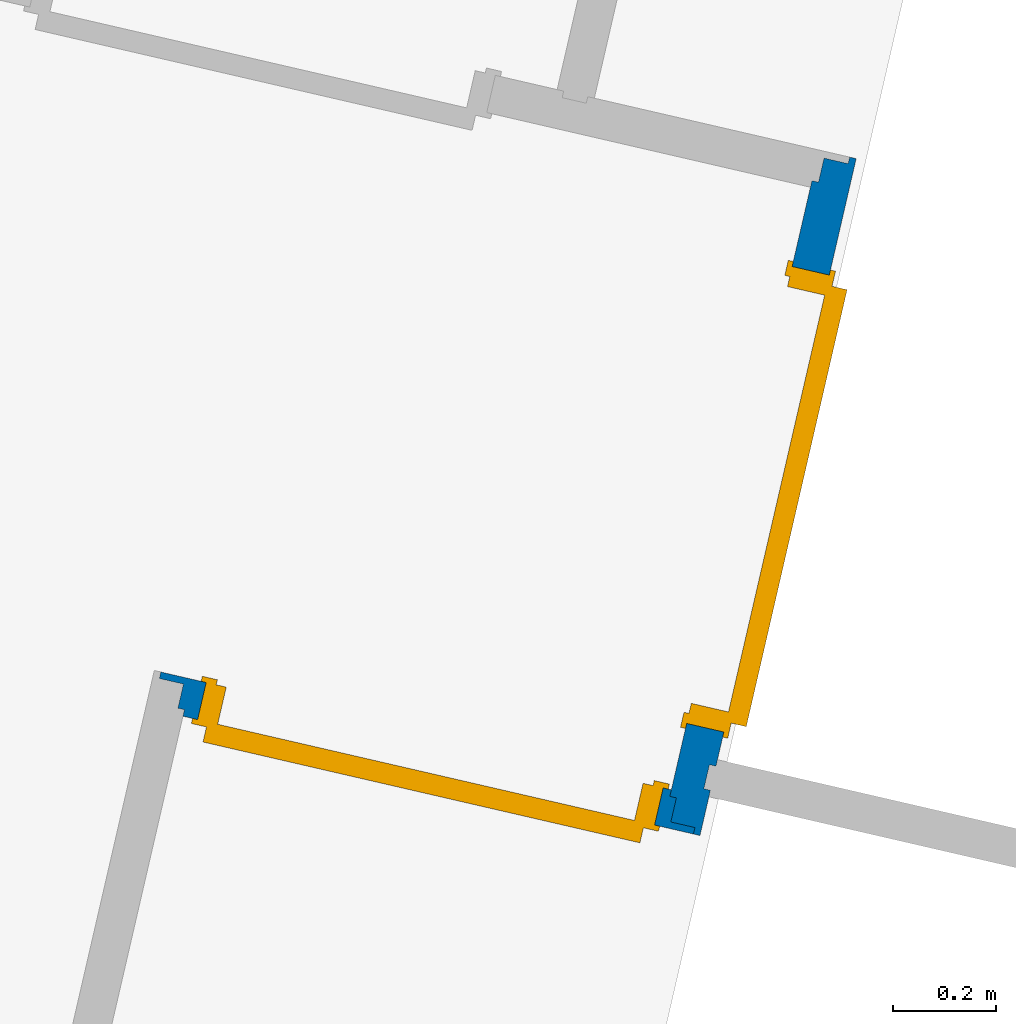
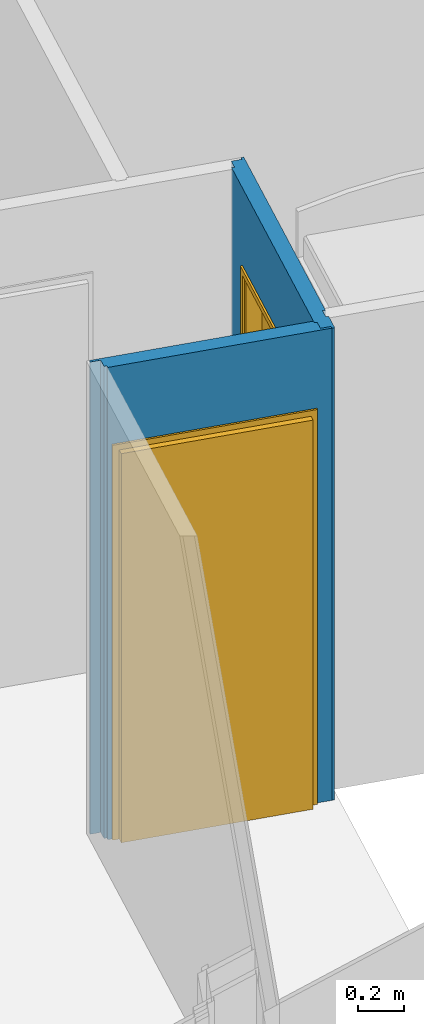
# One storey, part 28 of 119: 2 doors, 2 walls, 2 openings.
"""IFC2X3 building model written with IfcOpenShell, lengths in metres."""

from ifc_helpers import new_model, entity, si_unit, converted_unit, derived_unit, money_unit, direction, frame, origin_with_axes, place, context, subcontext, project, spatial, faceted_brep, source, transform, mapped, material, material_list, type_object, element, fill, save


model = new_model("IFC2X3")

# Units and contexts
model_context = context("Model", 3, precision=1e-05, world=origin_with_axes(), true_north=direction((0.0, 1.0)))
body_context = subcontext(model_context, "Body", "Model", "MODEL_VIEW")
ifc_project = project(units=[si_unit("LENGTHUNIT", "METRE"), si_unit("AREAUNIT", "SQUARE_METRE"), si_unit("VOLUMEUNIT", "CUBIC_METRE"), converted_unit("PLANEANGLEUNIT", "DEGREE", entity("IfcPlaneAngleMeasure", 0.0174532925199), si_unit("PLANEANGLEUNIT", "RADIAN"), dimensions=[0, 0, 0, 0, 0, 0, 0]), si_unit("SOLIDANGLEUNIT", "STERADIAN"), money_unit("EUR"), converted_unit("TIMEUNIT", "Year", entity("IfcTimeMeasure", 31556926.0), si_unit("TIMEUNIT", "SECOND"), dimensions=[0, 0, 1, 0, 0, 0, 0]), si_unit("MASSUNIT", "GRAM", prefix="KILO"), si_unit("THERMODYNAMICTEMPERATUREUNIT", "DEGREE_CELSIUS"), si_unit("LUMINOUSINTENSITYUNIT", "LUMEN"), si_unit("ENERGYUNIT", "JOULE", prefix="MEGA"), derived_unit("THERMALCONDUCTANCEUNIT", [(si_unit("POWERUNIT", "WATT"), 1), (si_unit("LENGTHUNIT", "METRE"), -1), (si_unit("THERMODYNAMICTEMPERATUREUNIT", "KELVIN"), -1)]), derived_unit("SPECIFICHEATCAPACITYUNIT", [(si_unit("ENERGYUNIT", "JOULE"), 1), (si_unit("MASSUNIT", "GRAM", prefix="KILO"), -1), (si_unit("THERMODYNAMICTEMPERATUREUNIT", "KELVIN"), -1)]), derived_unit("MASSDENSITYUNIT", [(si_unit("MASSUNIT", "GRAM", prefix="KILO"), 1), (si_unit("VOLUMEUNIT", "CUBIC_METRE"), -1)])], contexts=[model_context])

# Site, building, storey
site_placement = place(None, origin_with_axes())
site = spatial("IfcSite", under=ifc_project, at=site_placement, Name="Site", CompositionType="ELEMENT")
building_placement = place(site_placement, origin_with_axes())
building = spatial("IfcBuilding", under=site, at=building_placement, Name="Bâtiment", CompositionType="ELEMENT")
storey_placement = place(building_placement, origin_with_axes())
storey = spatial("IfcBuildingStorey", under=building, at=storey_placement, Name="Rez-de-chaussée", CompositionType="ELEMENT", Elevation=0.0)

# Wall, opening, door
ifc_material_1 = material(Name="Finition int - Plaque de plâtre")
ifc_material_2 = material(Name="Isolation - Laine de roche")
ifc_material_list = material_list([ifc_material_1, ifc_material_2, ifc_material_1])
wall_type = type_object("IfcWallType", Name="3 - Cloison 72mm Placostil 74", PredefinedType="USERDEFINED")
wall_1_placement = place(storey_placement, frame((-3.11984447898, 9.91320056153, 0.0), z_axis=(0.0, 0.0, 1.0), x_axis=(0.224876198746, 0.974387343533, 0.0)))
wall_1 = element("IfcWall", 1, at=wall_1_placement, inside=storey, type_object=wall_type, material=ifc_material_list, Name="Cloison Placostil 72/48", ObjectType="PARTITIONING", context=body_context, shape_type="Brep", body=[
    faceted_brep([(0.206154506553, 0.061, 0.0), (0.206154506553, 0.061, 2.08), (1.11615450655, 0.061, 2.08), (1.11615450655, 0.061, 0.0), (1.28699999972, 0.061, 0.0), (1.28699999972, 0.061, 2.5), (0.061, 0.061, 2.5), (0.061, 0.061, 0.0), (0.206154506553, 0.074, 0.0), (0.206154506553, 0.074, 2.08), (1.11615450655, 0.074, 2.08), (1.11615450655, 0.074, 0.0), (1.28699999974, 0.074, 0.0), (1.28699999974, 0.074, 2.5), (0.061, 0.074, 2.5), (0.061, 0.074, 0.0)], [[[0, 1, 2, 3, 4, 5, 6, 7]], [[1, 0, 8, 9]], [[2, 1, 9, 10]], [[3, 2, 10, 11]], [[3, 11, 12, 4]], [[12, 13, 5, 4]], [[13, 14, 6, 5]], [[15, 7, 6, 14]], [[8, 0, 7, 15]], [[9, 8, 15, 14, 13, 12, 11, 10]]]),
    faceted_brep([(0.206154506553, 0.013, 0.0), (0.206154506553, 0.013, 2.08), (1.11615450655, 0.013, 2.08), (1.11615450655, 0.013, 0.0), (1.33499999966, 0.013, 0.0), (1.33499999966, 0.013, 2.5), (0.013, 0.013, 2.5), (0.013, 0.013, 0.0), (0.206154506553, 0.061, 0.0), (0.206154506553, 0.061, 2.08), (1.11615450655, 0.061, 2.08), (1.11615450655, 0.061, 0.0), (1.33499999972, 0.061, 0.0), (1.33499999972, 0.061, 2.5), (0.013, 0.061, 2.5), (0.013, 0.061, 0.0)], [[[0, 1, 2, 3, 4, 5, 6, 7]], [[1, 0, 8, 9]], [[2, 1, 9, 10]], [[3, 2, 10, 11]], [[3, 11, 12, 4]], [[12, 13, 5, 4]], [[13, 14, 6, 5]], [[15, 7, 6, 14]], [[8, 0, 7, 15]], [[9, 8, 15, 14, 13, 12, 11, 10]]]),
    faceted_brep([(0.206154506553, 0.0, 0.0), (0.206154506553, 0.0, 2.08), (1.11615450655, 0.0, 2.08), (1.11615450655, 0.0, 0.0), (1.34799999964, 0.0, 0.0), (1.34799999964, 0.0, 2.5), (0.138146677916, 0.0, 2.5), (0.138146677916, 0.0, 0.0), (0.206154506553, 0.013, 0.0), (0.206154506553, 0.013, 2.08), (1.11615450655, 0.013, 2.08), (1.11615450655, 0.013, 0.0), (1.34799999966, 0.013, 0.0), (1.34799999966, 0.013, 2.5), (0.138146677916, 0.013, 2.5), (0.138146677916, 0.013, 0.0)], [[[0, 1, 2, 3, 4, 5, 6, 7]], [[1, 0, 8, 9]], [[2, 1, 9, 10]], [[3, 2, 10, 11]], [[3, 11, 12, 4]], [[12, 13, 5, 4]], [[13, 14, 6, 5]], [[15, 7, 6, 14]], [[8, 0, 7, 15]], [[9, 8, 15, 14, 13, 12, 11, 10]]]),
    faceted_brep([(0.0901466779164, 0.013, 0.0), (0.0901466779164, 0.0, 0.0), (0.0, 0.0, 0.0), (0.0, 0.013, 0.0), (0.0901466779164, 0.013, 2.5), (0.0901466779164, 0.0, 2.5), (0.0, 0.0, 2.5), (0.0, 0.013, 2.5)], [[[0, 1, 2, 3]], [[1, 0, 4, 5]], [[1, 5, 6, 2]], [[7, 3, 2, 6]], [[4, 0, 3, 7]], [[5, 4, 7, 6]]]),
])
opening_1_placement = place(wall_1_placement, frame((0.661154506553, 0.0, 0.0), z_axis=(0.0, 0.0, 1.0), x_axis=(1.0, 0.0, 0.0)))
opening_1 = element("IfcOpeningElement", 2, at=opening_1_placement, cuts=wall_1, Name="Porte 83x204 bois alvéolaire", context=body_context, shape_type="Brep", body=[
    faceted_brep([(-0.455, 0.074, 0.0), (0.455, 0.074, 0.0), (0.455, -0.074, 0.0), (-0.455, -0.074, 0.0), (-0.455, 0.074, 2.08), (0.455, 0.074, 2.08), (0.455, -0.074, 2.08), (-0.455, -0.074, 2.08)], [[[0, 1, 2, 3]], [[0, 4, 5, 1]], [[1, 5, 6, 2]], [[3, 2, 6, 7]], [[4, 0, 3, 7]], [[5, 4, 7, 6]]]),
])
door_style = type_object("IfcDoorStyle", Name="Porte int générique 2019", ConstructionType="NOTDEFINED", OperationType="SINGLE_SWING_RIGHT", ParameterTakesPrecedence=False, Sizeable=False)
shared_shape_1 = source(origin_with_axes(), body_context, "Body", "Brep", [
    faceted_brep([(0.455, 0.0, 0.0), (0.415, 0.0, 0.0), (0.415, 0.0, 2.04), (-0.415, 0.0, 2.04), (-0.415, 0.0, 0.0), (-0.455, 0.0, 0.0), (-0.455, 0.0, 2.08), (0.455, 0.0, 2.08), (0.455, -0.074, 0.0), (0.415, -0.074, 0.0), (0.415, -0.074, 2.04), (-0.415, -0.074, 2.04), (-0.415, -0.074, 0.0), (-0.455, -0.074, 0.0), (-0.455, -0.074, 2.08), (0.455, -0.074, 2.08)], [[[0, 1, 2, 3, 4, 5, 6, 7]], [[0, 8, 9, 1]], [[1, 9, 10, 2]], [[2, 10, 11, 3]], [[3, 11, 12, 4]], [[5, 4, 12, 13]], [[14, 6, 5, 13]], [[15, 7, 6, 14]], [[8, 0, 7, 15]], [[9, 8, 15, 14, 13, 12, 11, 10]]]),
    faceted_brep([(0.465, 0.0, 0.0), (0.465, 0.01, 0.0), (0.465, 0.01, 2.09), (0.465, 0.0, 2.09), (0.435, 0.0, 0.0), (0.435, 0.01, 0.0), (0.435, 0.01, 2.06), (-0.435, 0.01, 2.06), (-0.435, 0.01, 0.0), (-0.465, 0.01, 0.0), (-0.465, 0.01, 2.09), (-0.465, 0.0, 2.09), (-0.465, 0.0, 0.0), (-0.435, 0.0, 0.0), (-0.435, 0.0, 2.06), (0.435, 0.0, 2.06)], [[[0, 1, 2, 3]], [[0, 4, 5, 1]], [[1, 5, 6, 7, 8, 9, 10, 2]], [[3, 2, 10, 11]], [[4, 0, 3, 11, 12, 13, 14, 15]], [[5, 4, 15, 6]], [[6, 15, 14, 7]], [[7, 14, 13, 8]], [[12, 9, 8, 13]], [[11, 10, 9, 12]]]),
    faceted_brep([(0.465, -0.084, 0.0), (0.465, -0.074, 0.0), (0.465, -0.074, 2.09), (0.465, -0.084, 2.09), (0.435, -0.084, 0.0), (0.435, -0.074, 0.0), (0.435, -0.074, 2.06), (-0.435, -0.074, 2.06), (-0.435, -0.074, 0.0), (-0.465, -0.074, 0.0), (-0.465, -0.074, 2.09), (-0.465, -0.084, 2.09), (-0.465, -0.084, 0.0), (-0.435, -0.084, 0.0), (-0.435, -0.084, 2.06), (0.435, -0.084, 2.06)], [[[0, 1, 2, 3]], [[0, 4, 5, 1]], [[1, 5, 6, 7, 8, 9, 10, 2]], [[3, 2, 10, 11]], [[4, 0, 3, 11, 12, 13, 14, 15]], [[5, 4, 15, 6]], [[6, 15, 14, 7]], [[7, 14, 13, 8]], [[12, 9, 8, 13]], [[11, 10, 9, 12]]]),
    faceted_brep([(0.435, 0.04, 0.0), (0.435, 0.0, 0.0), (-0.435, 0.0, 0.0), (-0.435, 0.04, 0.0), (0.435, 0.04, 2.06), (0.435, 0.0, 2.06), (-0.435, 0.0, 2.06), (-0.435, 0.04, 2.06)], [[[0, 1, 2, 3]], [[4, 5, 1, 0]], [[1, 5, 6, 2]], [[3, 2, 6, 7]], [[0, 3, 7, 4]], [[7, 6, 5, 4]]]),
])
door_1_placement = place(opening_1_placement, frame((0.415, 0.0, 0.0), z_axis=(0.0, 0.0, 1.0), x_axis=(-1.0, 0.0, 0.0)))
door_1 = element("IfcDoor", 3, at=door_1_placement, inside=storey, type_object=door_style, Name="Porte 83x204 bois alvéolaire", ObjectType="DOOR", OverallHeight=2.04, OverallWidth=0.83, context=body_context, shape_type="MappedRepresentation", body=[
    mapped(shared_shape_1, transform((0.415, 0.0, 0.0))),
])
fill(opening_1, door_1)

wall_2_placement = place(storey_placement, frame((-4.12308835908, 10.1447364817, 0.0), z_axis=(0.0, 0.0, 1.0), x_axis=(0.974387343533, -0.224876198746, 0.0)))
wall_2 = element("IfcWall", 4, at=wall_2_placement, inside=storey, type_object=wall_type, material=ifc_material_list, Name="Cloison Placostil 72/48", ObjectType="PARTITIONING", context=body_context, shape_type="Brep", body=[
    faceted_brep([(0.0292401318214, 0.074, 2.08), (0.0292401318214, 0.074, 0.0), (-0.060999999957, 0.074, 0.0), (-0.060999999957, 0.074, 2.5), (0.955615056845, 0.074, 2.5), (0.955615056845, 0.074, 0.0), (0.939240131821, 0.074, 0.0), (0.939240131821, 0.074, 2.08), (0.0292401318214, 0.061, 2.08), (0.0292401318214, 0.061, 0.0), (-0.0609999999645, 0.061, 0.0), (-0.0609999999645, 0.061, 2.5), (0.955615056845, 0.061, 2.5), (0.955615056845, 0.061, 0.0), (0.939240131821, 0.061, 0.0), (0.939240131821, 0.061, 2.08)], [[[0, 1, 2, 3, 4, 5, 6, 7]], [[1, 0, 8, 9]], [[1, 9, 10, 2]], [[2, 10, 11, 3]], [[4, 3, 11, 12]], [[5, 4, 12, 13]], [[14, 6, 5, 13]], [[7, 6, 14, 15]], [[0, 7, 15, 8]], [[15, 14, 13, 12, 11, 10, 9, 8]]]),
    faceted_brep([(0.0292401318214, 0.061, 2.08), (0.0292401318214, 0.061, 0.0), (-0.0129999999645, 0.061, 0.0), (-0.0129999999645, 0.061, 2.5), (0.968615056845, 0.061, 2.5), (0.968615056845, 0.061, 0.0), (0.939240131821, 0.061, 0.0), (0.939240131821, 0.061, 2.08), (0.0292401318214, 0.013, 2.08), (0.0292401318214, 0.013, 0.0), (-0.0129999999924, 0.013, 0.0), (-0.0129999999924, 0.013, 2.5), (0.968615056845, 0.013, 2.5), (0.968615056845, 0.013, 0.0), (0.939240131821, 0.013, 0.0), (0.939240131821, 0.013, 2.08)], [[[0, 1, 2, 3, 4, 5, 6, 7]], [[1, 0, 8, 9]], [[1, 9, 10, 2]], [[2, 10, 11, 3]], [[4, 3, 11, 12]], [[5, 4, 12, 13]], [[14, 6, 5, 13]], [[7, 6, 14, 15]], [[0, 7, 15, 8]], [[15, 14, 13, 12, 11, 10, 9, 8]]]),
    faceted_brep([(0.0292401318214, 0.013, 2.08), (0.0292401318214, 0.013, 0.0), (0.0, 0.013, 0.0), (0.0, 0.013, 2.5), (1.01661505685, 0.013, 2.5), (1.01661505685, 0.013, 0.0), (0.939240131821, 0.013, 0.0), (0.939240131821, 0.013, 2.08), (0.0292401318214, 0.0, 2.08), (0.0292401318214, 0.0, 0.0), (0.0, 0.0, 0.0), (0.0, 0.0, 2.5), (1.01661505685, 0.0, 2.5), (1.01661505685, 0.0, 0.0), (0.939240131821, 0.0, 0.0), (0.939240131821, 0.0, 2.08)], [[[0, 1, 2, 3, 4, 5, 6, 7]], [[1, 0, 8, 9]], [[1, 9, 10, 2]], [[2, 10, 11, 3]], [[4, 3, 11, 12]], [[5, 4, 12, 13]], [[14, 6, 5, 13]], [[7, 6, 14, 15]], [[0, 7, 15, 8]], [[15, 14, 13, 12, 11, 10, 9, 8]]]),
])
opening_2_placement = place(wall_2_placement, frame((0.484240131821, 0.0, 0.0), z_axis=(0.0, 0.0, 1.0), x_axis=(1.0, 0.0, 0.0)))
opening_2 = element("IfcOpeningElement", 5, at=opening_2_placement, cuts=wall_2, Name="Porte 83x204 bois alvéolaire", context=body_context, shape_type="Brep", body=[
    faceted_brep([(-0.455, 0.074, 0.0), (0.455, 0.074, 0.0), (0.455, -0.074, 0.0), (-0.455, -0.074, 0.0), (-0.455, 0.074, 2.08), (0.455, 0.074, 2.08), (0.455, -0.074, 2.08), (-0.455, -0.074, 2.08)], [[[0, 1, 2, 3]], [[0, 4, 5, 1]], [[1, 5, 6, 2]], [[3, 2, 6, 7]], [[4, 0, 3, 7]], [[5, 4, 7, 6]]]),
])
shared_shape_2 = source(origin_with_axes(), body_context, "Body", "Brep", [
    faceted_brep([(0.455, -0.006, 0.0), (0.415, -0.006, 0.0), (0.415, -0.006, 2.04), (-0.415, -0.006, 2.04), (-0.415, -0.006, 0.0), (-0.455, -0.006, 0.0), (-0.455, -0.006, 2.08), (0.455, -0.006, 2.08), (0.455, -0.08, 0.0), (0.415, -0.08, 0.0), (0.415, -0.08, 2.04), (-0.415, -0.08, 2.04), (-0.415, -0.08, 0.0), (-0.455, -0.08, 0.0), (-0.455, -0.08, 2.08), (0.455, -0.08, 2.08)], [[[0, 1, 2, 3, 4, 5, 6, 7]], [[0, 8, 9, 1]], [[1, 9, 10, 2]], [[2, 10, 11, 3]], [[3, 11, 12, 4]], [[5, 4, 12, 13]], [[14, 6, 5, 13]], [[15, 7, 6, 14]], [[8, 0, 7, 15]], [[9, 8, 15, 14, 13, 12, 11, 10]]]),
    faceted_brep([(0.465, -0.006, 0.0), (0.465, 0.004, 0.0), (0.465, 0.004, 2.09), (0.465, -0.006, 2.09), (0.435, -0.006, 0.0), (0.435, 0.004, 0.0), (0.435, 0.004, 2.06), (-0.435, 0.004, 2.06), (-0.435, 0.004, 0.0), (-0.465, 0.004, 0.0), (-0.465, 0.004, 2.09), (-0.465, -0.006, 2.09), (-0.465, -0.006, 0.0), (-0.435, -0.006, 0.0), (-0.435, -0.006, 2.06), (0.435, -0.006, 2.06)], [[[0, 1, 2, 3]], [[0, 4, 5, 1]], [[1, 5, 6, 7, 8, 9, 10, 2]], [[3, 2, 10, 11]], [[4, 0, 3, 11, 12, 13, 14, 15]], [[5, 4, 15, 6]], [[6, 15, 14, 7]], [[7, 14, 13, 8]], [[12, 9, 8, 13]], [[11, 10, 9, 12]]]),
    faceted_brep([(0.465, -0.09, 0.0), (0.465, -0.08, 0.0), (0.465, -0.08, 2.09), (0.465, -0.09, 2.09), (0.435, -0.09, 0.0), (0.435, -0.08, 0.0), (0.435, -0.08, 2.06), (-0.435, -0.08, 2.06), (-0.435, -0.08, 0.0), (-0.465, -0.08, 0.0), (-0.465, -0.08, 2.09), (-0.465, -0.09, 2.09), (-0.465, -0.09, 0.0), (-0.435, -0.09, 0.0), (-0.435, -0.09, 2.06), (0.435, -0.09, 2.06)], [[[0, 1, 2, 3]], [[0, 4, 5, 1]], [[1, 5, 6, 7, 8, 9, 10, 2]], [[3, 2, 10, 11]], [[4, 0, 3, 11, 12, 13, 14, 15]], [[5, 4, 15, 6]], [[6, 15, 14, 7]], [[7, 14, 13, 8]], [[12, 9, 8, 13]], [[11, 10, 9, 12]]]),
    faceted_brep([(0.435, 0.034, 0.0), (0.435, -0.006, 0.0), (-0.435, -0.006, 0.0), (-0.435, 0.034, 0.0), (0.435, 0.034, 2.06), (0.435, -0.006, 2.06), (-0.435, -0.006, 2.06), (-0.435, 0.034, 2.06)], [[[0, 1, 2, 3]], [[4, 5, 1, 0]], [[1, 5, 6, 2]], [[3, 2, 6, 7]], [[0, 3, 7, 4]], [[7, 6, 5, 4]]]),
])
door_2_placement = place(opening_2_placement, frame((0.415, 0.0, 0.0), z_axis=(0.0, 0.0, 1.0), x_axis=(-1.0, 0.0, 0.0)))
door_2 = element("IfcDoor", 6, at=door_2_placement, inside=storey, type_object=door_style, Name="Porte 83x204 bois alvéolaire", ObjectType="DOOR", OverallHeight=2.04, OverallWidth=0.83, context=body_context, shape_type="MappedRepresentation", body=[
    mapped(shared_shape_2, transform((0.415, 0.006, 0.0))),
])
fill(opening_2, door_2)

save(model, "model.ifc")
